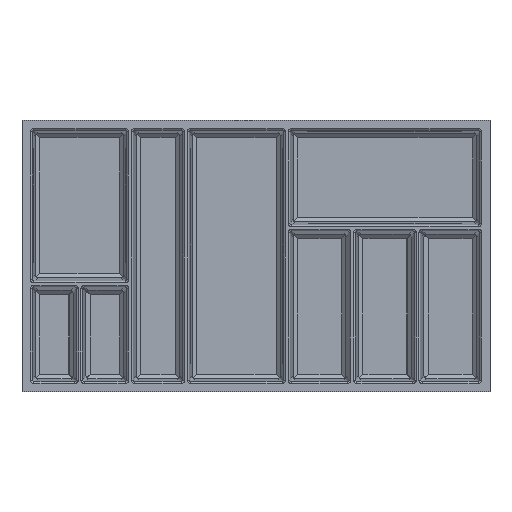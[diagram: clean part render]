
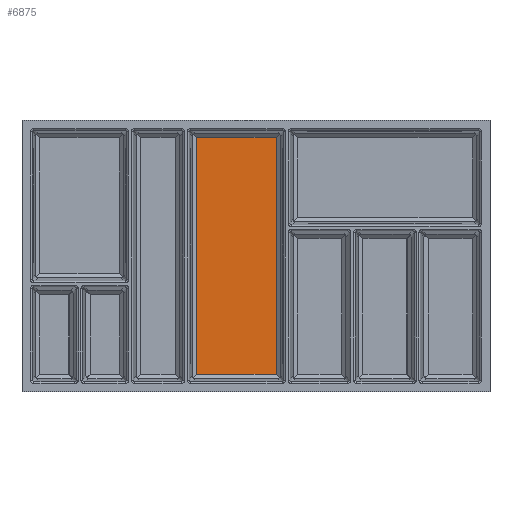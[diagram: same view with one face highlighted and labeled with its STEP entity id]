
A CAD part, top view. The second image highlights one B-rep face of the part: STEP entity #6875.
In plain terms, the highlighted planar face has unit normal (0, 0, 1).
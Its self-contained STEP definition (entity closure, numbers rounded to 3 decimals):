
#413 = EDGE_CURVE ( 'NONE', #30942, #17253, #4838, .T. ) ;
#1506 = DIRECTION ( 'NONE',  ( 1., 0., 0. ) ) ;
#2220 = ORIENTED_EDGE ( 'NONE', *, *, #5220, .T. ) ;
#2803 = ORIENTED_EDGE ( 'NONE', *, *, #17041, .T. ) ;
#3057 = CARTESIAN_POINT ( 'NONE',  ( -105.924, -210.924, 2.5 ) ) ;
#3071 = AXIS2_PLACEMENT_3D ( 'NONE', #8786, #24331, #1506 ) ;
#3516 = DIRECTION ( 'NONE',  ( 0., -1., 0. ) ) ;
#3597 = CARTESIAN_POINT ( 'NONE',  ( 35.924, -225., 2.5 ) ) ;
#4152 = FACE_OUTER_BOUND ( 'NONE', #28273, .T. ) ;
#4838 = LINE ( 'NONE', #5157, #8359 ) ;
#5157 = CARTESIAN_POINT ( 'NONE',  ( -120., -210.924, 2.5 ) ) ;
#5220 = EDGE_CURVE ( 'NONE', #13197, #24588, #24952, .T. ) ;
#5255 = CARTESIAN_POINT ( 'NONE',  ( -105.924, 210.924, 2.5 ) ) ;
#6563 = ORIENTED_EDGE ( 'NONE', *, *, #22814, .T. ) ;
#6875 = ADVANCED_FACE ( 'NONE', ( #4152 ), #9131, .T. ) ;
#7749 = CARTESIAN_POINT ( 'NONE',  ( 35.924, 210.924, 2.5 ) ) ;
#8359 = VECTOR ( 'NONE', #32426, 1000. ) ;
#8786 = CARTESIAN_POINT ( 'NONE',  ( -120., -225., 2.5 ) ) ;
#8883 = VECTOR ( 'NONE', #13704, 1000. ) ;
#9131 = PLANE ( 'NONE',  #3071 ) ;
#9610 = CARTESIAN_POINT ( 'NONE',  ( -120., 210.924, 2.5 ) ) ;
#10824 = LINE ( 'NONE', #15958, #22762 ) ;
#13197 = VERTEX_POINT ( 'NONE', #7749 ) ;
#13704 = DIRECTION ( 'NONE',  ( 0., 1., 0. ) ) ;
#15958 = CARTESIAN_POINT ( 'NONE',  ( -105.924, -225., 2.5 ) ) ;
#17041 = EDGE_CURVE ( 'NONE', #17253, #13197, #26218, .T. ) ;
#17253 = VERTEX_POINT ( 'NONE', #21603 ) ;
#21603 = CARTESIAN_POINT ( 'NONE',  ( 35.924, -210.924, 2.5 ) ) ;
#22355 = ORIENTED_EDGE ( 'NONE', *, *, #413, .T. ) ;
#22762 = VECTOR ( 'NONE', #3516, 1000. ) ;
#22814 = EDGE_CURVE ( 'NONE', #24588, #30942, #10824, .T. ) ;
#23941 = VECTOR ( 'NONE', #32536, 1000. ) ;
#24331 = DIRECTION ( 'NONE',  ( 0., 0., 1. ) ) ;
#24588 = VERTEX_POINT ( 'NONE', #5255 ) ;
#24952 = LINE ( 'NONE', #9610, #23941 ) ;
#26218 = LINE ( 'NONE', #3597, #8883 ) ;
#28273 = EDGE_LOOP ( 'NONE', ( #6563, #22355, #2803, #2220 ) ) ;
#30942 = VERTEX_POINT ( 'NONE', #3057 ) ;
#32426 = DIRECTION ( 'NONE',  ( 1., 0., 0. ) ) ;
#32536 = DIRECTION ( 'NONE',  ( -1., 0., 0. ) ) ;
